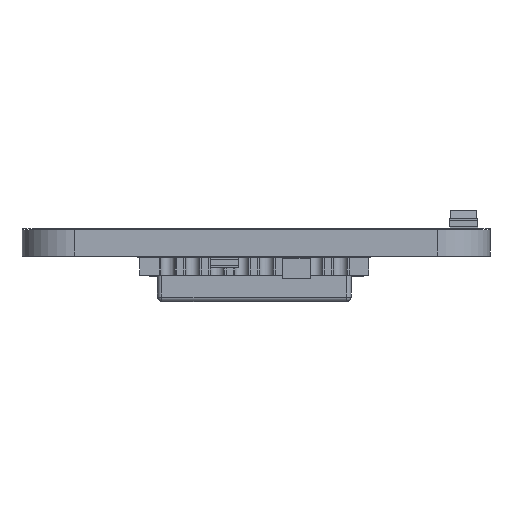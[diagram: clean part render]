
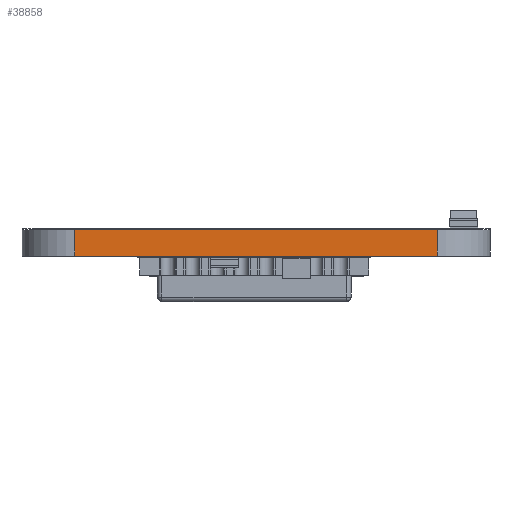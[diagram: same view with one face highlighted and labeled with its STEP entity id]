
A CAD part, front view. The second image highlights one B-rep face of the part: STEP entity #38858.
In plain terms, the highlighted planar face has unit normal (0, -1, 0).
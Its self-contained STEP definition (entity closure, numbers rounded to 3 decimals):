
#38529 = VERTEX_POINT('',#38530);
#38530 = CARTESIAN_POINT('',(-10.3,-12.05,0.));
#38537 = EDGE_CURVE('',#38538,#38529,#38540,.T.);
#38538 = VERTEX_POINT('',#38539);
#38539 = CARTESIAN_POINT('',(10.3,-12.05,0.));
#38540 = LINE('',#38541,#38542);
#38541 = CARTESIAN_POINT('',(10.3,-12.05,0.));
#38542 = VECTOR('',#38543,1.);
#38543 = DIRECTION('',(-1.,0.,0.));
#38680 = VERTEX_POINT('',#38681);
#38681 = CARTESIAN_POINT('',(-10.3,-12.05,1.51));
#38688 = EDGE_CURVE('',#38689,#38680,#38691,.T.);
#38689 = VERTEX_POINT('',#38690);
#38690 = CARTESIAN_POINT('',(10.3,-12.05,1.51));
#38691 = LINE('',#38692,#38693);
#38692 = CARTESIAN_POINT('',(10.3,-12.05,1.51));
#38693 = VECTOR('',#38694,1.);
#38694 = DIRECTION('',(-1.,0.,0.));
#38830 = EDGE_CURVE('',#38538,#38689,#38831,.T.);
#38831 = LINE('',#38832,#38833);
#38832 = CARTESIAN_POINT('',(10.3,-12.05,0.));
#38833 = VECTOR('',#38834,1.);
#38834 = DIRECTION('',(0.,0.,1.));
#38858 = ADVANCED_FACE('',(#38859),#38870,.T.);
#38859 = FACE_BOUND('',#38860,.T.);
#38860 = EDGE_LOOP('',(#38861,#38862,#38863,#38869));
#38861 = ORIENTED_EDGE('',*,*,#38830,.T.);
#38862 = ORIENTED_EDGE('',*,*,#38688,.T.);
#38863 = ORIENTED_EDGE('',*,*,#38864,.F.);
#38864 = EDGE_CURVE('',#38529,#38680,#38865,.T.);
#38865 = LINE('',#38866,#38867);
#38866 = CARTESIAN_POINT('',(-10.3,-12.05,0.));
#38867 = VECTOR('',#38868,1.);
#38868 = DIRECTION('',(0.,0.,1.));
#38869 = ORIENTED_EDGE('',*,*,#38537,.F.);
#38870 = PLANE('',#38871);
#38871 = AXIS2_PLACEMENT_3D('',#38872,#38873,#38874);
#38872 = CARTESIAN_POINT('',(10.3,-12.05,0.));
#38873 = DIRECTION('',(0.,-1.,0.));
#38874 = DIRECTION('',(-1.,0.,0.));
